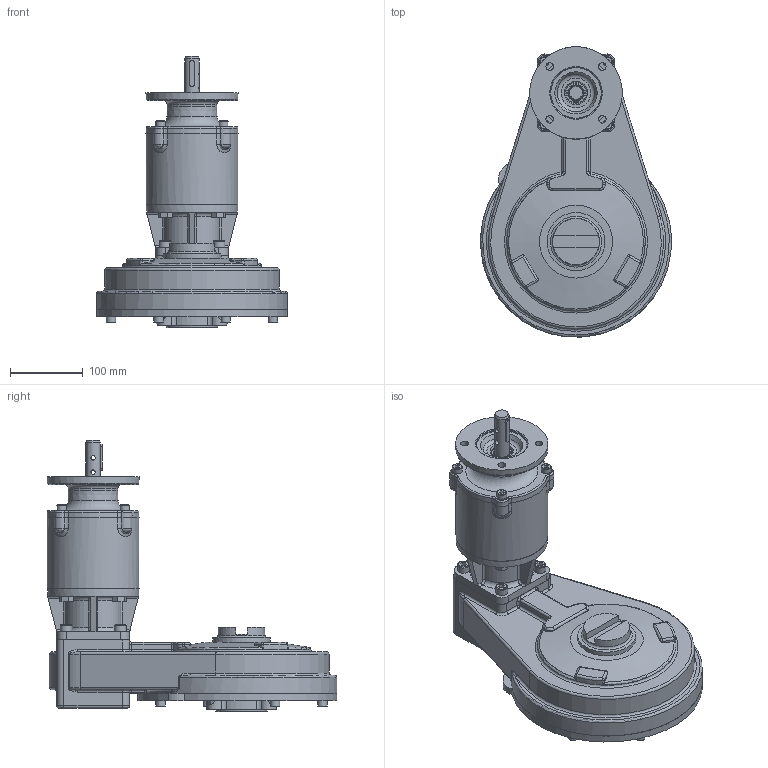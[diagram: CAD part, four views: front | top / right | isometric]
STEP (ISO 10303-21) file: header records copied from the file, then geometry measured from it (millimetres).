
FILE_DESCRIPTION( ( 'Unknown' ), '1' );
FILE_NAME( 'X:/CURRENT/PUB/Hos/HOS 2015/HOS-MPR/HOS-MPR-Models/PUB-HOS4MPR4-17.1-E-F10.stp', 'Unknown', ( 'Unknown' ), ( 'Unknown' ), 'PSStep 16.0.42', 'Unknown', ' ' );
FILE_SCHEMA( ( 'AUTOMOTIVE_DESIGN { 1 0 10303 214 1 1 1 1 }' ) );
Length unit declared in the file: millimetre
Products named in the file (36): 1; 2; 3; 4; 5; 6; 7; 8; 9; 10; 11; 12; 13; 14; 15; 16; 17; 18; 19; trelleborg_trea00200-n7mm_b5c67wtxxcj74kwnwb2box077_01; 20; 21; 22; 23; 24; 25; 26; 27; 28; 29; 30; 31; 32; 33; 34; 35
Bounding box: 261.86 x 397.49 x 371.88 mm (x, y, z)
Surface area: 432177.5 mm2 (no closed solid volume)
Topology: 0 solids, 691 shells, 691 faces, 3185 edges, 3070 vertices
Faces by surface type: plane 232, cylinder 194, torus 93, bspline 72, cone 70, sphere 30
Full cylindrical faces by diameter (mm): 6 x2, 8.376 x4, 8.5 x1, 10.5 x4, 13 x7, 13.27 x4, 16 x4, 20 x1, 30 x1, 55.05 x1, 69.95 x1, 70 x1, 79.375 x1, 84.95 x1, 125 x1, 126 x1
Entity records: 61050 total; most frequent: CARTESIAN_POINT 31709, DIRECTION 5113, VERTEX_POINT 3032, ORIENTED_EDGE 3027, EDGE_CURVE 3027, AXIS2_PLACEMENT_3D 1960, CIRCLE 1293, LINE 1193
